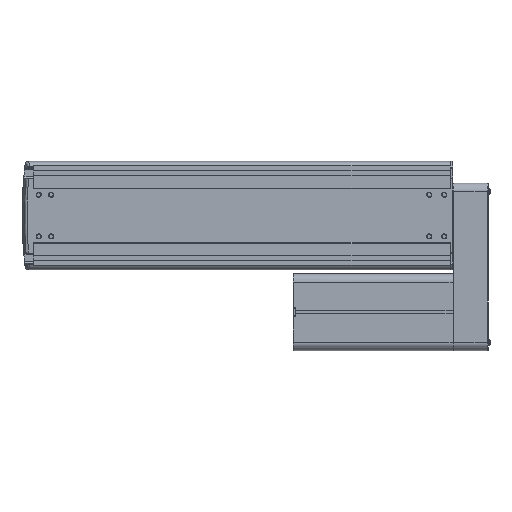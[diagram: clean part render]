
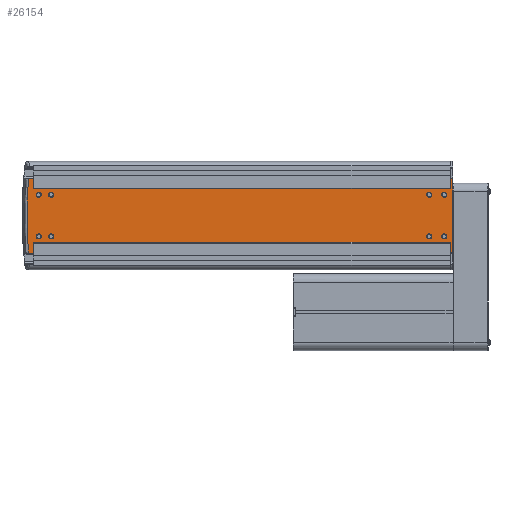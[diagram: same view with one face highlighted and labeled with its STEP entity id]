
A CAD part, front view. The second image highlights one B-rep face of the part: STEP entity #26154.
In plain terms, the highlighted planar face has unit normal (0, -1, 0).
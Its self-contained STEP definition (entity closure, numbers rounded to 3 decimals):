
#3523=CARTESIAN_POINT('',(-494.,1.5,-25.));
#3524=DIRECTION('',(0.,1.,0.));
#3525=DIRECTION('',(1.,0.,0.));
#3526=AXIS2_PLACEMENT_3D('',#3523,#3524,#3525);
#3528=CARTESIAN_POINT('',(-494.,1.5,-25.));
#3529=DIRECTION('',(0.,1.,0.));
#3530=DIRECTION('',(-1.,0.,0.));
#3531=AXIS2_PLACEMENT_3D('',#3528,#3529,#3530);
#3533=CARTESIAN_POINT('',(-494.,1.5,25.));
#3534=DIRECTION('',(0.,1.,0.));
#3535=DIRECTION('',(1.,0.,0.));
#3536=AXIS2_PLACEMENT_3D('',#3533,#3534,#3535);
#3538=CARTESIAN_POINT('',(-494.,1.5,25.));
#3539=DIRECTION('',(0.,1.,0.));
#3540=DIRECTION('',(-1.,0.,0.));
#3541=AXIS2_PLACEMENT_3D('',#3538,#3539,#3540);
#3543=CARTESIAN_POINT('',(-479.,1.5,-25.));
#3544=DIRECTION('',(0.,1.,0.));
#3545=DIRECTION('',(1.,0.,0.));
#3546=AXIS2_PLACEMENT_3D('',#3543,#3544,#3545);
#3548=CARTESIAN_POINT('',(-479.,1.5,-25.));
#3549=DIRECTION('',(0.,1.,0.));
#3550=DIRECTION('',(-1.,0.,0.));
#3551=AXIS2_PLACEMENT_3D('',#3548,#3549,#3550);
#3553=CARTESIAN_POINT('',(-479.,1.5,25.));
#3554=DIRECTION('',(0.,1.,0.));
#3555=DIRECTION('',(1.,0.,0.));
#3556=AXIS2_PLACEMENT_3D('',#3553,#3554,#3555);
#3558=CARTESIAN_POINT('',(-479.,1.5,25.));
#3559=DIRECTION('',(0.,1.,0.));
#3560=DIRECTION('',(-1.,0.,0.));
#3561=AXIS2_PLACEMENT_3D('',#3558,#3559,#3560);
#3563=CARTESIAN_POINT('',(-7.,1.5,-25.));
#3564=DIRECTION('',(0.,1.,0.));
#3565=DIRECTION('',(1.,0.,0.));
#3566=AXIS2_PLACEMENT_3D('',#3563,#3564,#3565);
#3568=CARTESIAN_POINT('',(-7.,1.5,-25.));
#3569=DIRECTION('',(0.,1.,0.));
#3570=DIRECTION('',(-1.,0.,0.));
#3571=AXIS2_PLACEMENT_3D('',#3568,#3569,#3570);
#3573=CARTESIAN_POINT('',(-7.,1.5,25.));
#3574=DIRECTION('',(0.,1.,0.));
#3575=DIRECTION('',(1.,0.,0.));
#3576=AXIS2_PLACEMENT_3D('',#3573,#3574,#3575);
#3578=CARTESIAN_POINT('',(-7.,1.5,25.));
#3579=DIRECTION('',(0.,1.,0.));
#3580=DIRECTION('',(-1.,0.,0.));
#3581=AXIS2_PLACEMENT_3D('',#3578,#3579,#3580);
#3583=CARTESIAN_POINT('',(-25.,1.5,-25.));
#3584=DIRECTION('',(0.,1.,0.));
#3585=DIRECTION('',(1.,0.,0.));
#3586=AXIS2_PLACEMENT_3D('',#3583,#3584,#3585);
#3588=CARTESIAN_POINT('',(-25.,1.5,-25.));
#3589=DIRECTION('',(0.,1.,0.));
#3590=DIRECTION('',(-1.,0.,0.));
#3591=AXIS2_PLACEMENT_3D('',#3588,#3589,#3590);
#3593=CARTESIAN_POINT('',(-25.,1.5,25.));
#3594=DIRECTION('',(0.,1.,0.));
#3595=DIRECTION('',(1.,0.,0.));
#3596=AXIS2_PLACEMENT_3D('',#3593,#3594,#3595);
#3598=CARTESIAN_POINT('',(-25.,1.5,25.));
#3599=DIRECTION('',(0.,1.,0.));
#3600=DIRECTION('',(-1.,0.,0.));
#3601=AXIS2_PLACEMENT_3D('',#3598,#3599,#3600);
#3603=CARTESIAN_POINT('',(-14.,1.5,0.));
#3604=DIRECTION('',(0.,-1.,0.));
#3605=DIRECTION('',(-0.996,0.,0.091));
#3606=AXIS2_PLACEMENT_3D('',#3603,#3604,#3605);
#3608=DIRECTION('',(-1.,0.,0.));
#3609=VECTOR('',#3608,500.);
#3610=CARTESIAN_POINT('',(0.,1.5,32.));
#3611=LINE('',#3610,#3609);
#3612=DIRECTION('',(0.,0.,1.));
#3613=VECTOR('',#3612,88.);
#3614=CARTESIAN_POINT('',(3.,1.5,-44.));
#3615=LINE('',#3614,#3613);
#4224=DIRECTION('',(0.,0.,-1.));
#4225=VECTOR('',#4224,13.);
#4226=CARTESIAN_POINT('',(-500.,1.5,45.));
#4227=LINE('',#4226,#4225);
#4285=DIRECTION('',(0.,0.,-1.));
#4286=VECTOR('',#4285,13.);
#4287=CARTESIAN_POINT('',(-500.,1.5,-32.));
#4288=LINE('',#4287,#4286);
#4632=DIRECTION('',(0.,0.,1.));
#4633=VECTOR('',#4632,12.);
#4634=CARTESIAN_POINT('',(0.,1.5,32.));
#4635=LINE('',#4634,#4633);
#4684=DIRECTION('',(0.,0.,1.));
#4685=VECTOR('',#4684,12.);
#4686=CARTESIAN_POINT('',(0.,1.5,-44.));
#4687=LINE('',#4686,#4685);
#5185=DIRECTION('',(-1.,0.,0.));
#5186=VECTOR('',#5185,6.147);
#5187=CARTESIAN_POINT('',(-500.,1.5,45.));
#5188=LINE('',#5187,#5186);
#5215=DIRECTION('',(1.,0.,0.));
#5216=VECTOR('',#5215,6.147);
#5217=CARTESIAN_POINT('',(-506.147,1.5,-45.));
#5218=LINE('',#5217,#5216);
#12474=DIRECTION('',(1.,0.,0.));
#12475=VECTOR('',#12474,3.);
#12476=CARTESIAN_POINT('',(0.,1.5,-44.));
#12477=LINE('',#12476,#12475);
#12814=DIRECTION('',(-1.,0.,0.));
#12815=VECTOR('',#12814,500.);
#12816=CARTESIAN_POINT('',(0.,1.5,-32.));
#12817=LINE('',#12816,#12815);
#12846=DIRECTION('',(-1.,0.,0.));
#12847=VECTOR('',#12846,3.);
#12848=CARTESIAN_POINT('',(3.,1.5,44.));
#12849=LINE('',#12848,#12847);
#17080=CARTESIAN_POINT('',(3.,1.5,44.));
#17081=VERTEX_POINT('',#17080);
#17082=CARTESIAN_POINT('',(3.,1.5,-44.));
#17083=VERTEX_POINT('',#17082);
#17848=CARTESIAN_POINT('',(-506.147,1.5,45.));
#17849=CARTESIAN_POINT('',(-506.147,1.5,-45.));
#17850=VERTEX_POINT('',#17848);
#17851=VERTEX_POINT('',#17849);
#18678=CARTESIAN_POINT('',(-491.5,1.5,-25.));
#18679=CARTESIAN_POINT('',(-496.5,1.5,-25.));
#18680=VERTEX_POINT('',#18678);
#18681=VERTEX_POINT('',#18679);
#18682=CARTESIAN_POINT('',(-491.5,1.5,25.));
#18683=CARTESIAN_POINT('',(-496.5,1.5,25.));
#18684=VERTEX_POINT('',#18682);
#18685=VERTEX_POINT('',#18683);
#18686=CARTESIAN_POINT('',(-476.5,1.5,-25.));
#18687=CARTESIAN_POINT('',(-481.5,1.5,-25.));
#18688=VERTEX_POINT('',#18686);
#18689=VERTEX_POINT('',#18687);
#18690=CARTESIAN_POINT('',(-476.5,1.5,25.));
#18691=CARTESIAN_POINT('',(-481.5,1.5,25.));
#18692=VERTEX_POINT('',#18690);
#18693=VERTEX_POINT('',#18691);
#18694=CARTESIAN_POINT('',(-4.5,1.5,-25.));
#18695=CARTESIAN_POINT('',(-9.5,1.5,-25.));
#18696=VERTEX_POINT('',#18694);
#18697=VERTEX_POINT('',#18695);
#18698=CARTESIAN_POINT('',(-4.5,1.5,25.));
#18699=CARTESIAN_POINT('',(-9.5,1.5,25.));
#18700=VERTEX_POINT('',#18698);
#18701=VERTEX_POINT('',#18699);
#18702=CARTESIAN_POINT('',(-22.5,1.5,-25.));
#18703=CARTESIAN_POINT('',(-27.5,1.5,-25.));
#18704=VERTEX_POINT('',#18702);
#18705=VERTEX_POINT('',#18703);
#18706=CARTESIAN_POINT('',(-22.5,1.5,25.));
#18707=CARTESIAN_POINT('',(-27.5,1.5,25.));
#18708=VERTEX_POINT('',#18706);
#18709=VERTEX_POINT('',#18707);
#19639=CARTESIAN_POINT('',(0.,1.5,-44.));
#19640=VERTEX_POINT('',#19639);
#19641=CARTESIAN_POINT('',(0.,1.5,-32.));
#19642=VERTEX_POINT('',#19641);
#19643=CARTESIAN_POINT('',(0.,1.5,32.));
#19644=CARTESIAN_POINT('',(0.,1.5,44.));
#19645=VERTEX_POINT('',#19643);
#19646=VERTEX_POINT('',#19644);
#20095=CARTESIAN_POINT('',(-500.,1.5,45.));
#20096=CARTESIAN_POINT('',(-500.,1.5,32.));
#20097=VERTEX_POINT('',#20095);
#20098=VERTEX_POINT('',#20096);
#20099=CARTESIAN_POINT('',(-500.,1.5,-32.));
#20100=CARTESIAN_POINT('',(-500.,1.5,-45.));
#20101=VERTEX_POINT('',#20099);
#20102=VERTEX_POINT('',#20100);
#26076=CARTESIAN_POINT('',(-250.,1.5,0.));
#26077=DIRECTION('',(0.,1.,0.));
#26078=DIRECTION('',(0.,0.,-1.));
#26079=AXIS2_PLACEMENT_3D('',#26076,#26077,#26078);
#26080=PLANE('',#26079);
#26082=ORIENTED_EDGE('',*,*,#26081,.T.);
#26084=ORIENTED_EDGE('',*,*,#26083,.T.);
#26086=ORIENTED_EDGE('',*,*,#26085,.F.);
#26088=ORIENTED_EDGE('',*,*,#26087,.F.);
#26090=ORIENTED_EDGE('',*,*,#26089,.F.);
#26092=ORIENTED_EDGE('',*,*,#26091,.T.);
#26094=ORIENTED_EDGE('',*,*,#26093,.F.);
#26096=ORIENTED_EDGE('',*,*,#26095,.T.);
#26098=ORIENTED_EDGE('',*,*,#26097,.F.);
#26100=ORIENTED_EDGE('',*,*,#26099,.F.);
#26102=ORIENTED_EDGE('',*,*,#26101,.F.);
#26104=ORIENTED_EDGE('',*,*,#26103,.T.);
#26105=EDGE_LOOP('',(#26082,#26084,#26086,#26088,#26090,#26092,#26094,#26096,
#26098,#26100,#26102,#26104));
#26106=FACE_OUTER_BOUND('',#26105,.F.);
#26107=ORIENTED_EDGE('',*,*,#26066,.F.);
#26109=ORIENTED_EDGE('',*,*,#26108,.F.);
#26110=EDGE_LOOP('',(#26107,#26109));
#26111=FACE_BOUND('',#26110,.F.);
#26113=ORIENTED_EDGE('',*,*,#26112,.F.);
#26115=ORIENTED_EDGE('',*,*,#26114,.F.);
#26116=EDGE_LOOP('',(#26113,#26115));
#26117=FACE_BOUND('',#26116,.F.);
#26119=ORIENTED_EDGE('',*,*,#26118,.F.);
#26121=ORIENTED_EDGE('',*,*,#26120,.F.);
#26122=EDGE_LOOP('',(#26119,#26121));
#26123=FACE_BOUND('',#26122,.F.);
#26125=ORIENTED_EDGE('',*,*,#26124,.F.);
#26127=ORIENTED_EDGE('',*,*,#26126,.F.);
#26128=EDGE_LOOP('',(#26125,#26127));
#26129=FACE_BOUND('',#26128,.F.);
#26131=ORIENTED_EDGE('',*,*,#26130,.F.);
#26133=ORIENTED_EDGE('',*,*,#26132,.F.);
#26134=EDGE_LOOP('',(#26131,#26133));
#26135=FACE_BOUND('',#26134,.F.);
#26137=ORIENTED_EDGE('',*,*,#26136,.F.);
#26139=ORIENTED_EDGE('',*,*,#26138,.F.);
#26140=EDGE_LOOP('',(#26137,#26139));
#26141=FACE_BOUND('',#26140,.F.);
#26143=ORIENTED_EDGE('',*,*,#26142,.F.);
#26145=ORIENTED_EDGE('',*,*,#26144,.F.);
#26146=EDGE_LOOP('',(#26143,#26145));
#26147=FACE_BOUND('',#26146,.F.);
#26149=ORIENTED_EDGE('',*,*,#26148,.F.);
#26151=ORIENTED_EDGE('',*,*,#26150,.F.);
#26152=EDGE_LOOP('',(#26149,#26151));
#26153=FACE_BOUND('',#26152,.F.);
#26154=ADVANCED_FACE('',(#26106,#26111,#26117,#26123,#26129,#26135,#26141,
#26147,#26153),#26080,.F.);
#3527=CIRCLE('',#3526,2.5);
#3532=CIRCLE('',#3531,2.5);
#3537=CIRCLE('',#3536,2.5);
#3542=CIRCLE('',#3541,2.5);
#3547=CIRCLE('',#3546,2.5);
#3552=CIRCLE('',#3551,2.5);
#3557=CIRCLE('',#3556,2.5);
#3562=CIRCLE('',#3561,2.5);
#3567=CIRCLE('',#3566,2.5);
#3572=CIRCLE('',#3571,2.5);
#3577=CIRCLE('',#3576,2.5);
#3582=CIRCLE('',#3581,2.5);
#3587=CIRCLE('',#3586,2.5);
#3592=CIRCLE('',#3591,2.5);
#3597=CIRCLE('',#3596,2.5);
#3602=CIRCLE('',#3601,2.5);
#3607=CIRCLE('',#3606,494.2);
#26066=EDGE_CURVE('',#18684,#18685,#3537,.T.);
#26081=EDGE_CURVE('',#19642,#20101,#12817,.T.);
#26083=EDGE_CURVE('',#20101,#20102,#4288,.T.);
#26085=EDGE_CURVE('',#17851,#20102,#5218,.T.);
#26087=EDGE_CURVE('',#17850,#17851,#3607,.T.);
#26089=EDGE_CURVE('',#20097,#17850,#5188,.T.);
#26091=EDGE_CURVE('',#20097,#20098,#4227,.T.);
#26093=EDGE_CURVE('',#19645,#20098,#3611,.T.);
#26095=EDGE_CURVE('',#19645,#19646,#4635,.T.);
#26097=EDGE_CURVE('',#17081,#19646,#12849,.T.);
#26099=EDGE_CURVE('',#17083,#17081,#3615,.T.);
#26101=EDGE_CURVE('',#19640,#17083,#12477,.T.);
#26103=EDGE_CURVE('',#19640,#19642,#4687,.T.);
#26108=EDGE_CURVE('',#18685,#18684,#3542,.T.);
#26112=EDGE_CURVE('',#18688,#18689,#3547,.T.);
#26114=EDGE_CURVE('',#18689,#18688,#3552,.T.);
#26118=EDGE_CURVE('',#18692,#18693,#3557,.T.);
#26120=EDGE_CURVE('',#18693,#18692,#3562,.T.);
#26124=EDGE_CURVE('',#18696,#18697,#3567,.T.);
#26126=EDGE_CURVE('',#18697,#18696,#3572,.T.);
#26130=EDGE_CURVE('',#18700,#18701,#3577,.T.);
#26132=EDGE_CURVE('',#18701,#18700,#3582,.T.);
#26136=EDGE_CURVE('',#18704,#18705,#3587,.T.);
#26138=EDGE_CURVE('',#18705,#18704,#3592,.T.);
#26142=EDGE_CURVE('',#18708,#18709,#3597,.T.);
#26144=EDGE_CURVE('',#18709,#18708,#3602,.T.);
#26148=EDGE_CURVE('',#18680,#18681,#3527,.T.);
#26150=EDGE_CURVE('',#18681,#18680,#3532,.T.);
